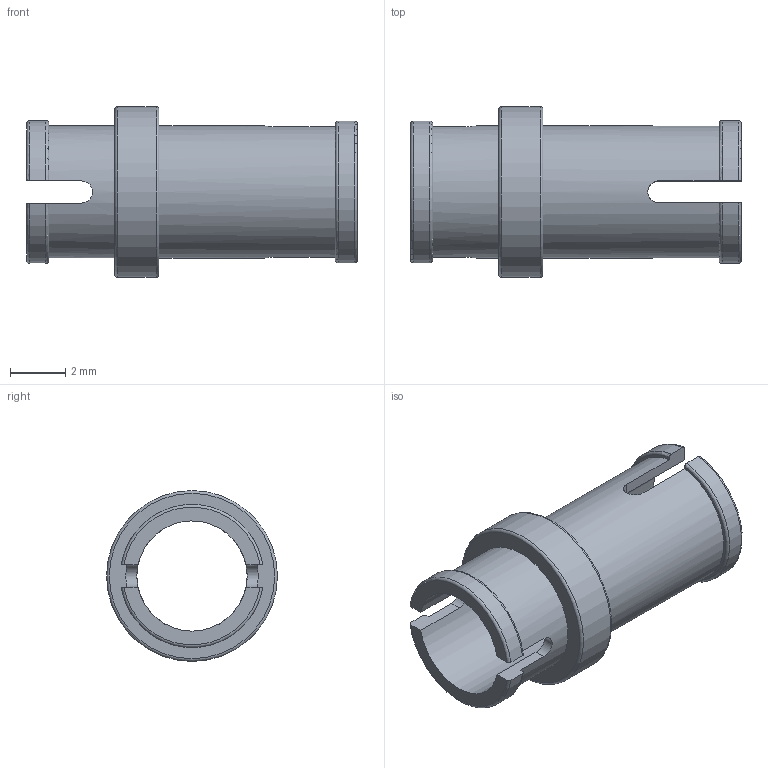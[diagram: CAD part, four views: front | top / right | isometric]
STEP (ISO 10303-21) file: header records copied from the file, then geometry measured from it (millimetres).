
FILE_DESCRIPTION(/* description */ ('Unknown'),/* implementation_level */ '2;1');
FILE_NAME(/* name */ 'Sand_6013938_MCM',/* time_stamp */ '2025-07-22T00:05:12+02:00',/* author */ ('Unknown'),/* organization */ ('Unknown'),/* preprocessor_version */ 'ST-DEVELOPER v19.4',/* originating_system */ 'Solid Edge',/* authorisation */ 'Unknown');
FILE_SCHEMA (('AUTOMOTIVE_DESIGN {1 0 10303 214 3 1 1}'));
Length unit declared in the file: millimetre
Products named in the file (1): Sand_6013938_MCM
Bounding box: 12 x 6.2 x 6.2 mm (x, y, z)
Volume: 86.4 mm3; surface area: 375.1 mm2
Topology: 1 solids, 1 shells, 40 faces, 112 edges, 74 vertices
Faces by surface type: plane 18, cylinder 12, torus 10
Full cylindrical faces by diameter (mm): 4 x1, 4.8 x2, 6.2 x1
Entity records: 1290 total; most frequent: CARTESIAN_POINT 293, ORIENTED_EDGE 204, DIRECTION 190, EDGE_CURVE 102, AXIS2_PLACEMENT_3D 71, VERTEX_POINT 70, LINE 48, VECTOR 48
